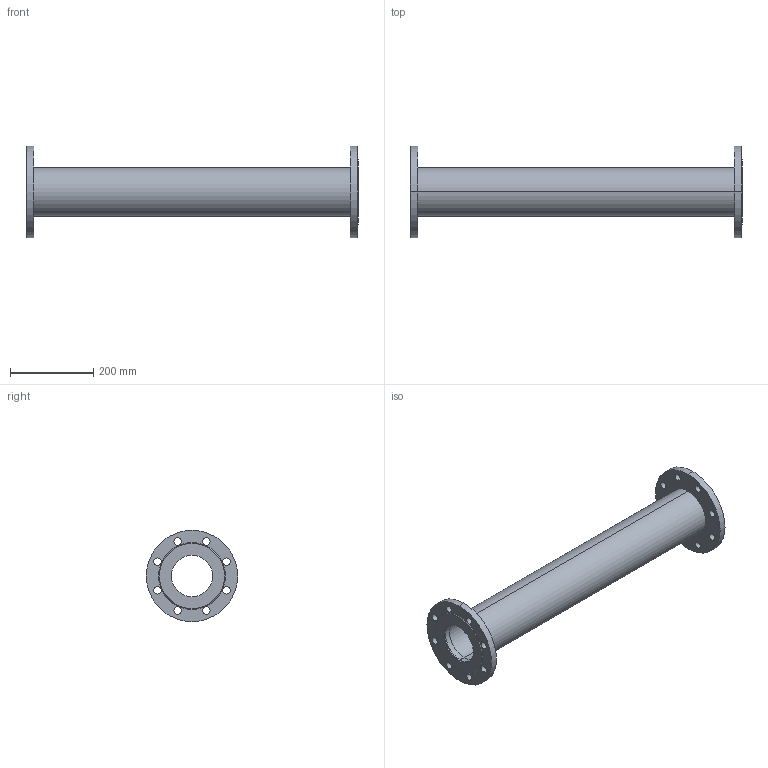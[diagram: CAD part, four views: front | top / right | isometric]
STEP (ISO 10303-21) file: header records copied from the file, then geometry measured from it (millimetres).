
FILE_DESCRIPTION(('STEP AP214'),'1');
FILE_NAME('U:/VDI-Daten/8500/8500_PN16_DN100_L800.STP','2012-06-12T15:04:50',(' '),(' '),'Spatial InterOp 3D',' ',' ');
FILE_SCHEMA(('automotive_design'));
Length unit declared in the file: millimetre
Products named in the file (5): 3D-Objekt
Bounding box: 800 x 220 x 220 mm (x, y, z)
Volume: 3438914 mm3; surface area: 761366.4 mm2
Topology: 5 solids, 5 shells, 62 faces, 156 edges, 104 vertices
Faces by surface type: cylinder 48, plane 10, cone 4
Entity records: 2621 total; most frequent: DIRECTION 394, CARTESIAN_POINT 327, ORIENTED_EDGE 312, AXIS2_PLACEMENT_3D 171, EDGE_CURVE 156, EDGE_LOOP 104, VERTEX_POINT 104, CIRCLE 104
